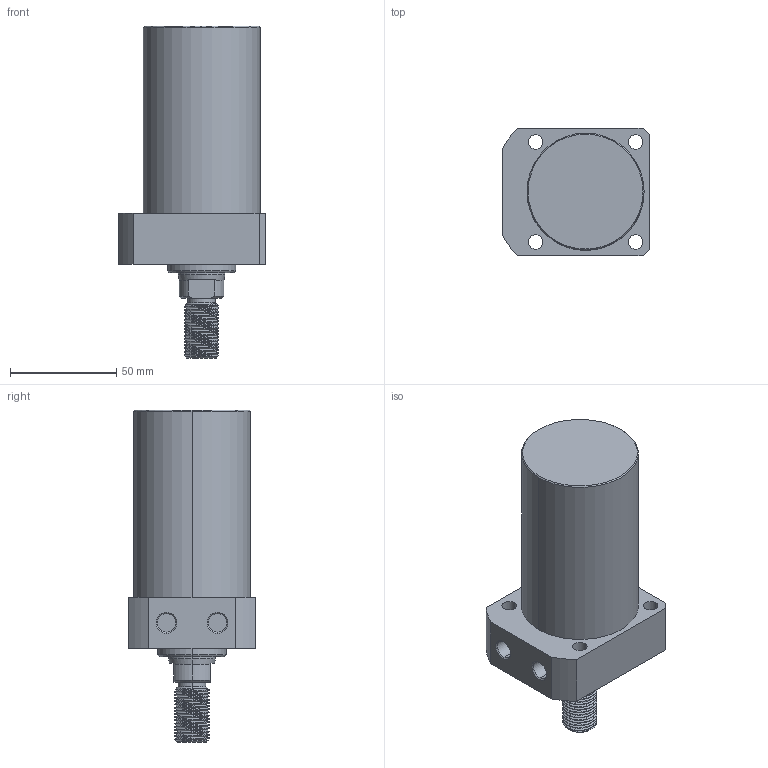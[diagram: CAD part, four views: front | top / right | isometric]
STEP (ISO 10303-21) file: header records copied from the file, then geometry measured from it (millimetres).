
FILE_DESCRIPTION (( 'STEP AP214' ), '1' );
FILE_NAME ('CLLR-055CT-075.STEP', '2020-01-09T00:42:39', ( 'Windows' ), ( 'Microsoft' ), 'SwSTEP 2.0', 'SolidWorks 2015', '' );
FILE_SCHEMA (( 'AUTOMOTIVE_DESIGN' ));
Length unit declared in the file: millimetre
Products named in the file (1): CLLR-055CT-075
Bounding box: 69 x 60 x 156 mm (x, y, z)
Volume: 313422.2 mm3; surface area: 35164.6 mm2
Topology: 1 solids, 1 shells, 101 faces, 260 edges, 169 vertices
Faces by surface type: cylinder 61, plane 20, cone 18, bspline 2
Entity records: 5036 total; most frequent: CARTESIAN_POINT 2689, ORIENTED_EDGE 520, DIRECTION 454, EDGE_CURVE 260, AXIS2_PLACEMENT_3D 177, VERTEX_POINT 169, EDGE_LOOP 117, FACE_OUTER_BOUND 101
